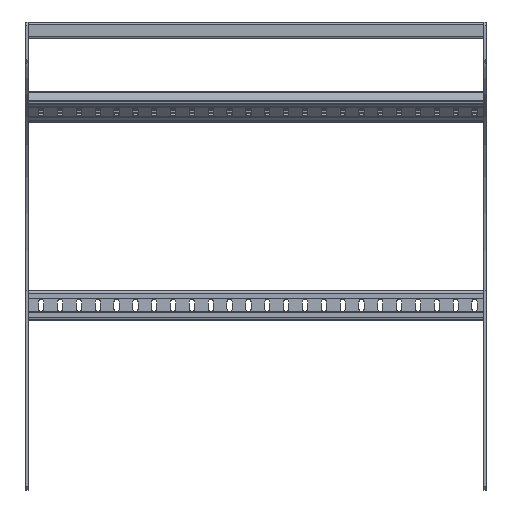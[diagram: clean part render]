
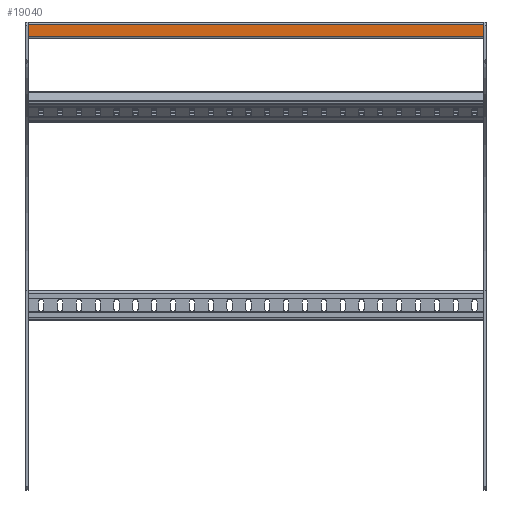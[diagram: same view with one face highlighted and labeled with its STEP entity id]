
A CAD part, top view. The second image highlights one B-rep face of the part: STEP entity #19040.
In plain terms, the highlighted planar face has unit normal (0, 0, 1) as drawn and (-1, 0, 0) by its records, which use the part's own axes.
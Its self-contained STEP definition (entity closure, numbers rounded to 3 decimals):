
#16140=CARTESIAN_POINT('',(0.,896.5,-202.5));
#16150=VERTEX_POINT('',#16140);
#16180=CARTESIAN_POINT('',(0.,0.,-202.5));
#16190=DIRECTION('',(0.,1.,0.));
#16200=VECTOR('',#16190,1.);
#16210=LINE('',#16180,#16200);
#16220=CARTESIAN_POINT('',(0.,881.5,-202.5));
#16230=VERTEX_POINT('',#16220);
#16240=EDGE_CURVE('',#16230,#16150,#16210,.T.);
#18740=CARTESIAN_POINT('',(0.,878.,40.));
#18750=DIRECTION('',(-1.,0.,0.));
#18760=DIRECTION('',(0.,1.,0.));
#18770=AXIS2_PLACEMENT_3D('',#18740,#18750,#18760);
#18780=PLANE('',#18770);
#18790=CARTESIAN_POINT('',(0.,881.5,40.));
#18800=DIRECTION('',(0.,0.,1.));
#18810=VECTOR('',#18800,1.);
#18820=LINE('',#18790,#18810);
#18830=CARTESIAN_POINT('',(0.,881.5,402.5));
#18840=VERTEX_POINT('',#18830);
#18850=EDGE_CURVE('',#16230,#18840,#18820,.T.);
#18860=ORIENTED_EDGE('',*,*,#18850,.T.);
#18870=ORIENTED_EDGE('',*,*,#16240,.F.);
#18880=CARTESIAN_POINT('',(0.,896.5,40.));
#18890=DIRECTION('',(0.,0.,1.));
#18900=VECTOR('',#18890,1.);
#18910=LINE('',#18880,#18900);
#18920=CARTESIAN_POINT('',(0.,896.5,402.5));
#18930=VERTEX_POINT('',#18920);
#18940=EDGE_CURVE('',#16150,#18930,#18910,.T.);
#18950=ORIENTED_EDGE('',*,*,#18940,.F.);
#18960=CARTESIAN_POINT('',(0.,0.,402.5));
#18970=DIRECTION('',(0.,-1.,0.));
#18980=VECTOR('',#18970,1.);
#18990=LINE('',#18960,#18980);
#19000=EDGE_CURVE('',#18930,#18840,#18990,.T.);
#19010=ORIENTED_EDGE('',*,*,#19000,.F.);
#19020=EDGE_LOOP('',(#19010,#18950,#18870,#18860));
#19030=FACE_OUTER_BOUND('',#19020,.T.);
#19040=ADVANCED_FACE('',(#19030),#18780,.T.);
